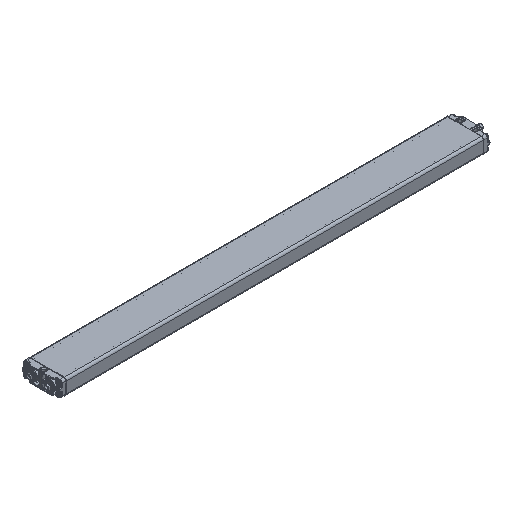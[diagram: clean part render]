
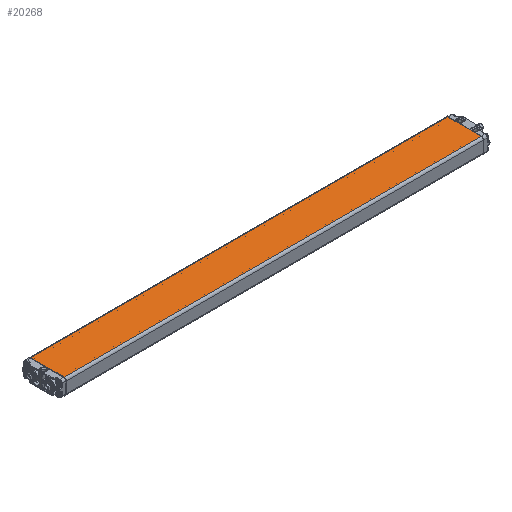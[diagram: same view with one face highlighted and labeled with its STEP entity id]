
A CAD part, isometric view. The second image highlights one B-rep face of the part: STEP entity #20268.
In plain terms, the highlighted planar face has unit normal (0, 0, 1).
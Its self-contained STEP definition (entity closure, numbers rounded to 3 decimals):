
#2488=LINE('',#48859,#3323);
#2489=LINE('',#48862,#3324);
#2490=LINE('',#48864,#3325);
#2491=LINE('',#48866,#3326);
#3323=VECTOR('',#25598,1000.);
#3324=VECTOR('',#25599,1000.);
#3325=VECTOR('',#25600,1000.);
#3326=VECTOR('',#25601,1000.);
#7464=ORIENTED_EDGE('',*,*,#11484,.T.);
#7465=ORIENTED_EDGE('',*,*,#11485,.T.);
#7466=ORIENTED_EDGE('',*,*,#11486,.T.);
#7467=ORIENTED_EDGE('',*,*,#11487,.T.);
#11484=EDGE_CURVE('',#13686,#13687,#2488,.T.);
#11485=EDGE_CURVE('',#13687,#13688,#2489,.F.);
#11486=EDGE_CURVE('',#13688,#13689,#2490,.F.);
#11487=EDGE_CURVE('',#13689,#13686,#2491,.T.);
#13686=VERTEX_POINT('',#48860);
#13687=VERTEX_POINT('',#48861);
#13688=VERTEX_POINT('',#48863);
#13689=VERTEX_POINT('',#48865);
#16058=EDGE_LOOP('',(#7464,#7465,#7466,#7467));
#17517=FACE_BOUND('',#16058,.T.);
#18320=PLANE('',#21961);
#20268=ADVANCED_FACE('',(#17517),#18320,.T.);
#21961=AXIS2_PLACEMENT_3D('',#48858,#25596,#25597);
#25596=DIRECTION('',(0.,0.,1.));
#25597=DIRECTION('',(1.,0.,0.));
#25598=DIRECTION('',(0.,-1.,0.));
#25599=DIRECTION('',(-1.,0.,0.));
#25600=DIRECTION('',(0.,-1.,0.));
#25601=DIRECTION('',(-1.,0.,0.));
#48858=CARTESIAN_POINT('',(42.5,939.5,17.5));
#48859=CARTESIAN_POINT('',(-37.5,939.5,17.5));
#48860=CARTESIAN_POINT('',(-37.5,939.,17.5));
#48861=CARTESIAN_POINT('',(-37.5,0.5,17.5));
#48862=CARTESIAN_POINT('',(37.5,0.5,17.5));
#48863=CARTESIAN_POINT('',(37.5,0.5,17.5));
#48864=CARTESIAN_POINT('',(37.5,939.5,17.5));
#48865=CARTESIAN_POINT('',(37.5,939.,17.5));
#48866=CARTESIAN_POINT('',(42.5,939.,17.5));
